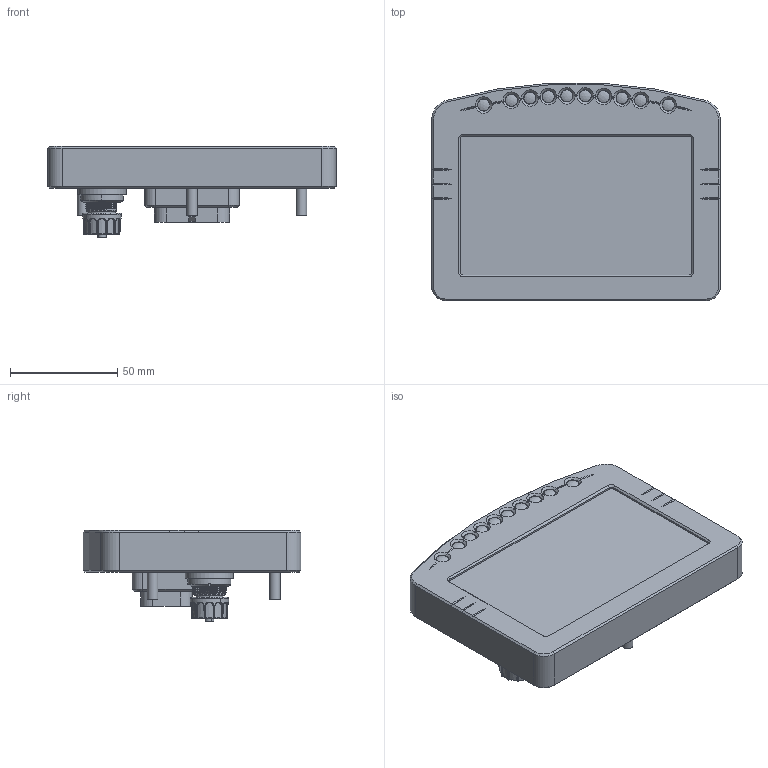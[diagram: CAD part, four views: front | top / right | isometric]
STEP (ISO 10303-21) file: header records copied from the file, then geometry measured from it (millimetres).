
FILE_DESCRIPTION(/* description */ ('Alibre Inc.'),/* implementation_level */ '2;1');
FILE_NAME(/* name */ 'export2',/* time_stamp */ '2018-02-20T08:46:07+11:00',/* author */ (''),/* organization */ (''),/* preprocessor_version */ 'ST-DEVELOPER v14',/* originating_system */ 'Alibre',/* authorisation */ '');
FILE_SCHEMA (('CONFIG_CONTROL_DESIGN'));
Length unit declared in the file: centimetre
Products named in the file (7): ID_1; ID_2; ID_3; ID_4; ID_5; ID_6
Bounding box: 134.5 x 101.46 x 42.5 mm (x, y, z)
Volume: 250655.8 mm3; surface area: 58498.2 mm2
Topology: 37 solids, 37 shells, 2304 faces, 8313 edges, 6161 vertices
Faces by surface type: plane 1199, cylinder 691, cone 178, bspline 153, torus 36, sphere 24, revolution 23
Full cylindrical faces by diameter (mm): 4.2 x10, 5 x3, 5.85 x10, 22.5 x1
Entity records: 115180 total; most frequent: CARTESIAN_POINT 51650, ORIENTED_EDGE 14510, DIRECTION 12117, EDGE_CURVE 7255, VERTEX_POINT 5535, AXIS2_PLACEMENT_3D 5035, CIRCLE 3305, VECTOR 3018
